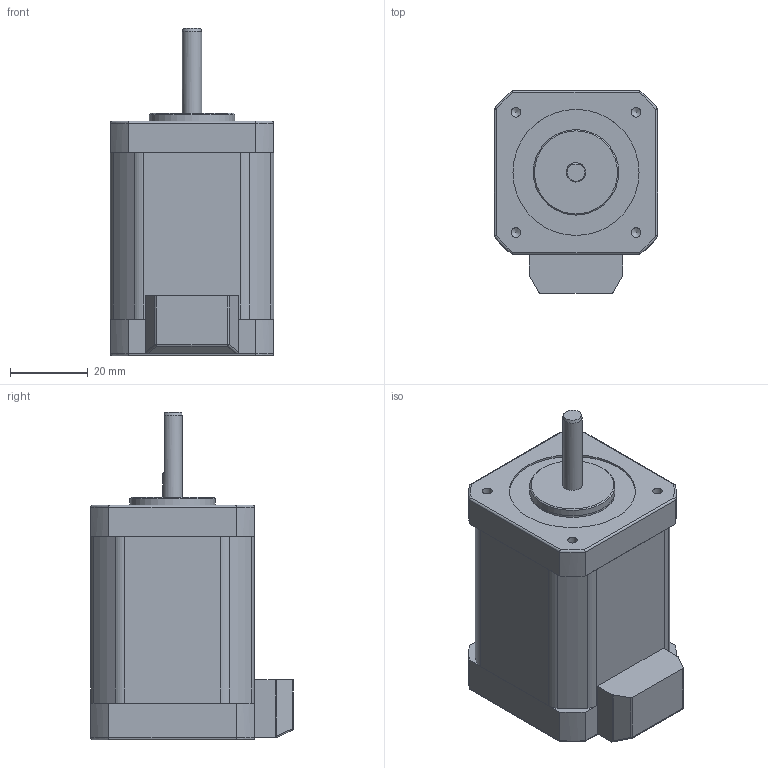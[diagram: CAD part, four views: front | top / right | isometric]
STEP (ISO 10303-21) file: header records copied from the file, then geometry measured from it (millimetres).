
FILE_DESCRIPTION( ('This file contains a STEP AP42 implementation' ,'as created by ZW3D STEP Interface translator.') ,'2;1' );
FILE_NAME( 'AM510A-42A0086-0000.stp' ,'24 719.185547', (''), ('ZWCAD Software Co.'), 'Version 1.0', 'ZW3D to STEP translator', '' );
FILE_SCHEMA(('AUTOMOTIVE_DESIGN { 1 0 10303 214 1 1 1 1 }'));
Length unit declared in the file: millimetre
Products named in the file (2): 0; AM510A-42A0025-0000
Bounding box: 42.2 x 52.2 x 84.5 mm (x, y, z)
Volume: 106971.2 mm3; surface area: 22467.1 mm2
Topology: 6 solids, 6 shells, 99 faces, 264 edges, 227 vertices
Faces by surface type: cylinder 43, plane 34, bspline 14, cone 6, sphere 2
Full cylindrical faces by diameter (mm): 2.5 x8, 5 x1, 22 x2, 32.5 x1
Entity records: 3556 total; most frequent: CARTESIAN_POINT 1067, DIRECTION 486, ORIENTED_EDGE 440, EDGE_CURVE 220, AXIS2_PLACEMENT_3D 179, VERTEX_POINT 139, VECTOR 128, LINE 128
